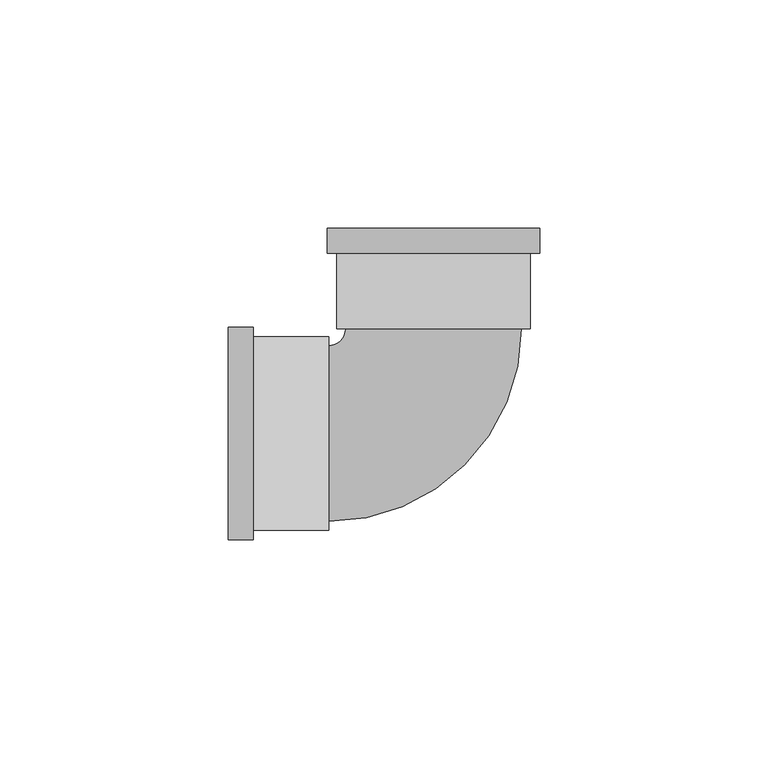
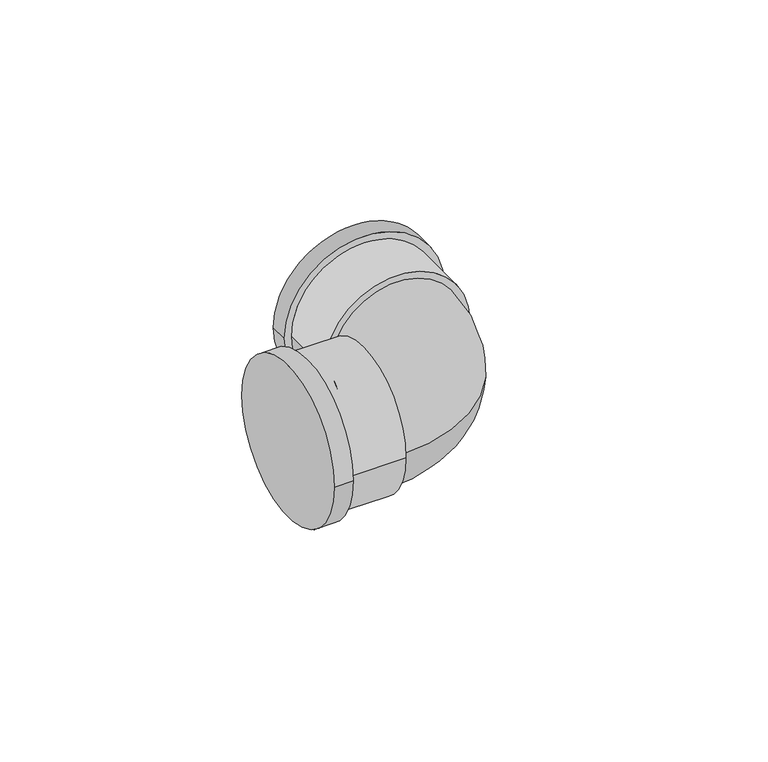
"""IFC4 building model written with IfcOpenShell, lengths in millimetres: pipe fitting geometry, Cotovelo - PVC - CW : Padrão."""

from ifc_helpers import new_model, si_unit, point, frame, origin, place, context, project, spatial, circle_curve, ellipse_curve, trimmed, source, transform, mapped, element, save
from ifc_brep_helpers import plane_surface, cylinder_surface, revolved_surface, advanced_brep


def pipe_fitting_062ba67a(model_context):
    return source(origin(), model_context, "Body", "AdvancedBrep", [
        advanced_brep(
        [(-45.0003915, -23.2925, 0.0), (-45.0003915, 23.2925, 0.0), (-39.5003915, -23.2925, 0.0), (-39.5003915, 23.2925, 0.0), (-39.5003915, -21.175, 0.0), (-39.5003915, 21.175, 0.0), (-23.0003915, 21.175, 0.0), (-23.0003915, -21.175, 0.0), (-23.0003915, -19.25, 0.0), (-23.0003915, 19.25, 0.0), (-19.2503915, 23.0000638, 0.0), (19.2496085, 23.0007191, 0.0), (21.1746085, 23.0007519, 0.0), (-21.1753915, 23.0000311, 0.0), (-23.2932659, 44.999995, 0.0), (23.2917341, 45.0007879, 0.0), (21.1743277, 39.5007519, 0.0), (-21.1756723, 39.5000311, 0.0), (-23.2931723, 39.499995, 0.0), (23.2918277, 39.5007879, 0.0)],
        [
            (0, 1, circle_curve(frame((-45.0003915, 0.0, 0.0), z_axis=(-1.0, 0.0, 0.0), x_axis=(0.0, 1.0, 0.0)), 23.2925)),
            (1, 0, circle_curve(frame((-45.0003915, 0.0, 0.0), z_axis=(-1.0, 0.0, 0.0), x_axis=(0.0, 1.0, 0.0)), 23.2925)),
            (2, 3, circle_curve(frame((-39.5003915, 0.0, 0.0), z_axis=(1.0, 0.0, 0.0), x_axis=(0.0, 1.0, 0.0)), 23.2925)),
            (3, 2, circle_curve(frame((-39.5003915, 0.0, 0.0), z_axis=(1.0, 0.0, 0.0), x_axis=(0.0, 1.0, 0.0)), 23.2925)),
            (4, 5, circle_curve(frame((-39.5003915, 0.0, 0.0), z_axis=(-1.0, 0.0, 0.0), x_axis=(0.0, -1.0, 0.0)), 21.175)),
            (5, 4, circle_curve(frame((-39.5003915, 0.0, 0.0), z_axis=(-1.0, 0.0, 0.0), x_axis=(0.0, -1.0, 0.0)), 21.175)),
            (0, 2),
            (3, 1),
            (6, 7, circle_curve(frame((-23.0003915, 0.0, 0.0), z_axis=(1.0, 0.0, 0.0), x_axis=(0.0, -1.0, 0.0)), 21.175)),
            (7, 6, circle_curve(frame((-23.0003915, 0.0, 0.0), z_axis=(1.0, 0.0, 0.0), x_axis=(0.0, -1.0, 0.0)), 21.175)),
            (8, 9, circle_curve(frame((-23.0003915, 0.0, 0.0), z_axis=(-1.0, 0.0, 0.0), x_axis=(0.0, 1.0, 0.0)), 19.25)),
            (9, 8, circle_curve(frame((-23.0003915, 0.0, 0.0), z_axis=(-1.0, 0.0, 0.0), x_axis=(0.0, 1.0, 0.0)), 19.25)),
            (6, 5),
            (4, 7),
            (10, 9, circle_curve(frame((-23.0003915, 23.0, 0.0), z_axis=(0.0, 0.0, -1.0), x_axis=(0.0, -1.0, 0.0)), 3.75)),
            (8, 11, circle_curve(frame((-23.0003915, 23.0, 0.0), z_axis=(0.0, 0.0, 1.0), x_axis=(0.0, -1.0, 0.0)), 42.25)),
            (11, 10, circle_curve(frame((-0.0003915, 23.0003915, 0.0), z_axis=(1.7020106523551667e-05, -0.999999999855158, 0.0), x_axis=(-0.999999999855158, -1.7020106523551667e-05, 0.0)), 19.25)),
            (10, 11, circle_curve(frame((-0.0003915, 23.0003915, 0.0), z_axis=(1.7020106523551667e-05, -0.999999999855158, 0.0), x_axis=(-0.999999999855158, -1.7020106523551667e-05, 0.0)), 19.25)),
            (12, 13, circle_curve(frame((-0.0003915, 23.0003915, 0.0), z_axis=(1.7020106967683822e-05, -0.999999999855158, 0.0), x_axis=(-0.999999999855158, -1.7020106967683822e-05, 0.0)), 21.175)),
            (13, 12, circle_curve(frame((-0.0003915, 23.0003915, 0.0), z_axis=(1.7020106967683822e-05, -0.999999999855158, 0.0), x_axis=(-0.999999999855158, -1.7020106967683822e-05, 0.0)), 21.175)),
            (14, 15, circle_curve(frame((-0.0007659, 45.0003915, 0.0), z_axis=(-1.7020106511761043e-05, 0.999999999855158, 0.0), x_axis=(0.999999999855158, 1.7020106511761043e-05, 0.0)), 23.2925)),
            (15, 14, circle_curve(frame((-0.0007659, 45.0003915, 0.0), z_axis=(-1.7020106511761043e-05, 0.999999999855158, 0.0), x_axis=(0.999999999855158, 1.7020106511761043e-05, 0.0)), 23.2925)),
            (12, 16),
            (16, 17, circle_curve(frame((-0.0006723, 39.5003915, 0.0), z_axis=(1.7020106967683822e-05, -0.999999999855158, 0.0), x_axis=(-0.999999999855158, -1.7020106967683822e-05, 0.0)), 21.175)),
            (17, 13),
            (17, 16, circle_curve(frame((-0.0006723, 39.5003915, 0.0), z_axis=(1.7020106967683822e-05, -0.999999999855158, 0.0), x_axis=(-0.999999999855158, -1.7020106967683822e-05, 0.0)), 21.175)),
            (18, 19, circle_curve(frame((-0.0006723, 39.5003915, 0.0), z_axis=(1.7020106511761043e-05, -0.999999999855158, 0.0), x_axis=(0.999999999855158, 1.7020106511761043e-05, 0.0)), 23.2925)),
            (19, 18, circle_curve(frame((-0.0006723, 39.5003915, 0.0), z_axis=(1.7020106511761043e-05, -0.999999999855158, 0.0), x_axis=(0.999999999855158, 1.7020106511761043e-05, 0.0)), 23.2925)),
            (14, 18),
            (19, 15),
        ],
        [
            plane_surface(frame((-45.0003915, 0.0, 0.0), z_axis=(-1.0, 0.0, 0.0), x_axis=(0.0, 0.0, 1.0))),
            plane_surface(frame((-39.5003915, 0.0, 0.0), z_axis=(1.0, 0.0, 0.0), x_axis=(0.0, 0.0, 1.0))),
            cylinder_surface(frame((-45.0003915, 0.0, 0.0), z_axis=(-1.0, 0.0, 0.0), x_axis=(0.0, 1.0, 0.0)), 23.2925),
            plane_surface(frame((-23.0003915, 0.0, 0.0), z_axis=(1.0, 0.0, 0.0), x_axis=(0.0, 0.0, 1.0))),
            cylinder_surface(frame((-23.0003915, 0.0, 0.0), z_axis=(1.0, 0.0, 0.0), x_axis=(0.0, -1.0, 0.0)), 21.175),
            revolved_surface(trimmed(ellipse_curve(frame((-23.0003915, 0.0, 0.0), z_axis=(-1.0, 0.0, 0.0), x_axis=(0.0, 1.0, 0.0)), 19.25, 19.25), [point((-23.0003915, -19.25, 0.0))], [point((-23.0003915, 19.25, 0.0))], True, "CARTESIAN"), (-23.0003915, 23.0, 0.0), (0.0, 0.0, 1.0)),
            revolved_surface(trimmed(ellipse_curve(frame((-23.0003915, 0.0, 0.0), z_axis=(-1.0, 0.0, 0.0), x_axis=(0.0, 1.0, 0.0)), 19.25, 19.25), [point((-23.0003915, 19.25, 0.0))], [point((-23.0003915, -19.25, 0.0))], True, "CARTESIAN"), (-23.0003915, 23.0, 0.0), (0.0, 0.0, 1.0)),
            plane_surface(frame((-0.0003915, 23.0003915, 0.0), z_axis=(1.7020106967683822e-05, -0.999999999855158, 0.0), x_axis=(0.0, 0.0, 1.0))),
            plane_surface(frame((-0.0007659, 45.0003915, 0.0), z_axis=(-1.7020106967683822e-05, 0.999999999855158, 0.0), x_axis=(0.0, 0.0, 1.0))),
            cylinder_surface(frame((-0.0003915, 23.0003915, 0.0), z_axis=(1.7020106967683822e-05, -0.999999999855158, 0.0), x_axis=(-0.999999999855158, -1.7020106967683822e-05, 0.0)), 21.175),
            plane_surface(frame((-0.0006723, 39.5003915, 0.0), z_axis=(1.7020106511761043e-05, -0.999999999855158, 0.0), x_axis=(0.0, 0.0, 1.0))),
            cylinder_surface(frame((-0.0007659, 45.0003915, 0.0), z_axis=(-1.7020106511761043e-05, 0.999999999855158, 0.0), x_axis=(0.999999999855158, 1.7020106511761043e-05, 0.0)), 23.2925),
        ],
        [
            (0, [[1, 2]]),
            (1, [[3, 4], [5, 6]]),
            (2, [[-1, 7, -4, 8]]),
            (2, [[-2, -8, -3, -7]]),
            (3, [[9, 10], [11, 12]]),
            (4, [[-9, 13, -5, 14]]),
            (4, [[-10, -14, -6, -13]]),
            (5, [[15, -11, 16, 17]]),
            (6, [[-15, 18, -16, -12]]),
            (7, [[19, 20], [-17, -18]]),
            (8, [[21, 22]]),
            (9, [[-19, 23, 24, 25]]),
            (9, [[-20, -25, 26, -23]]),
            (10, [[27, 28], [-24, -26]]),
            (11, [[-21, 29, -28, 30]]),
            (11, [[-22, -30, -27, -29]]),
        ],
    ),
    ])


if __name__ == "__main__":
    model = new_model("IFC4")
    model_context = context("Model", 3, world=origin())
    ifc_project = project(units=[si_unit("LENGTHUNIT", "METRE", prefix="MILLI")], contexts=[model_context])
    site = spatial("IfcSite", under=ifc_project)
    building = spatial("IfcBuilding", under=site)
    placement = place(None, origin())
    pipe_fitting_shape = pipe_fitting_062ba67a(model_context)
    element("IfcPipeFitting", 1, ObjectType="Cotovelo - PVC - CW : Padrão", at=placement, inside=building, context=model_context, shape_type="MappedRepresentation", body=[
        mapped(pipe_fitting_shape, transform((0.0, 0.0, 0.0), x_axis=(1.0, 0.0, 0.0), y_axis=(0.0, 1.0, 0.0), z_axis=(0.0, 0.0, 1.0))),
    ])
    save(model, "model.ifc")
